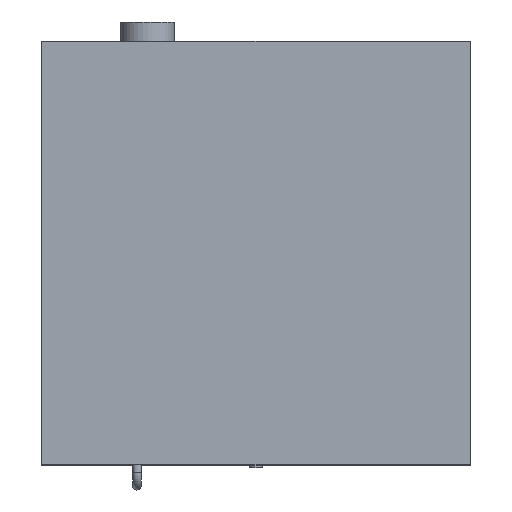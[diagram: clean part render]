
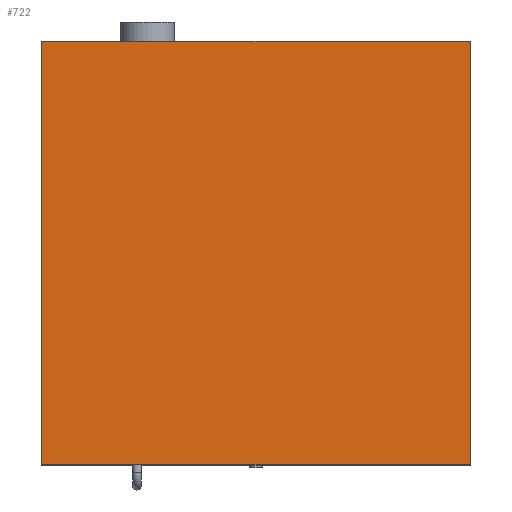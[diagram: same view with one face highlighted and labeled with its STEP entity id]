
A CAD part, top view. The second image highlights one B-rep face of the part: STEP entity #722.
In plain terms, the highlighted planar face has unit normal (0, 0, 1).
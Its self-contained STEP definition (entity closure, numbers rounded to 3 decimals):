
#38=LINE('',#981,#86);
#62=LINE('',#1032,#110);
#63=LINE('',#1034,#111);
#64=LINE('',#1036,#112);
#86=VECTOR('',#847,1000.);
#110=VECTOR('',#893,1000.);
#111=VECTOR('',#896,1000.);
#112=VECTOR('',#897,1000.);
#216=ORIENTED_EDGE('',*,*,#297,.T.);
#217=ORIENTED_EDGE('',*,*,#298,.T.);
#218=ORIENTED_EDGE('',*,*,#299,.T.);
#219=ORIENTED_EDGE('',*,*,#272,.T.);
#272=EDGE_CURVE('',#329,#328,#38,.T.);
#297=EDGE_CURVE('',#328,#344,#62,.T.);
#298=EDGE_CURVE('',#344,#345,#63,.T.);
#299=EDGE_CURVE('',#345,#329,#64,.T.);
#328=VERTEX_POINT('',#980);
#329=VERTEX_POINT('',#982);
#344=VERTEX_POINT('',#1031);
#345=VERTEX_POINT('',#1035);
#397=EDGE_LOOP('',(#216,#217,#218,#219));
#443=FACE_BOUND('',#397,.T.);
#471=PLANE('',#769);
#722=ADVANCED_FACE('',(#443),#471,.T.);
#769=AXIS2_PLACEMENT_3D('',#1033,#894,#895);
#847=DIRECTION('',(1.,0.,0.));
#893=DIRECTION('',(0.,1.,0.));
#894=DIRECTION('',(0.,0.,1.));
#895=DIRECTION('',(1.,0.,0.));
#896=DIRECTION('',(-1.,0.,0.));
#897=DIRECTION('',(0.,-1.,0.));
#980=CARTESIAN_POINT('',(601.,0.,596.));
#981=CARTESIAN_POINT('',(0.,0.,596.));
#982=CARTESIAN_POINT('',(0.,0.,596.));
#1031=CARTESIAN_POINT('',(601.,593.5,596.));
#1032=CARTESIAN_POINT('',(601.,0.,596.));
#1033=CARTESIAN_POINT('',(0.,0.,596.));
#1034=CARTESIAN_POINT('',(601.,593.5,596.));
#1035=CARTESIAN_POINT('',(0.,593.5,596.));
#1036=CARTESIAN_POINT('',(0.,493.,596.));
